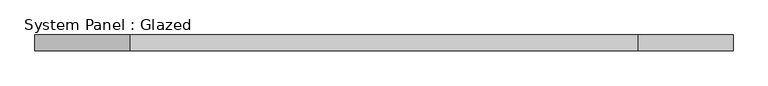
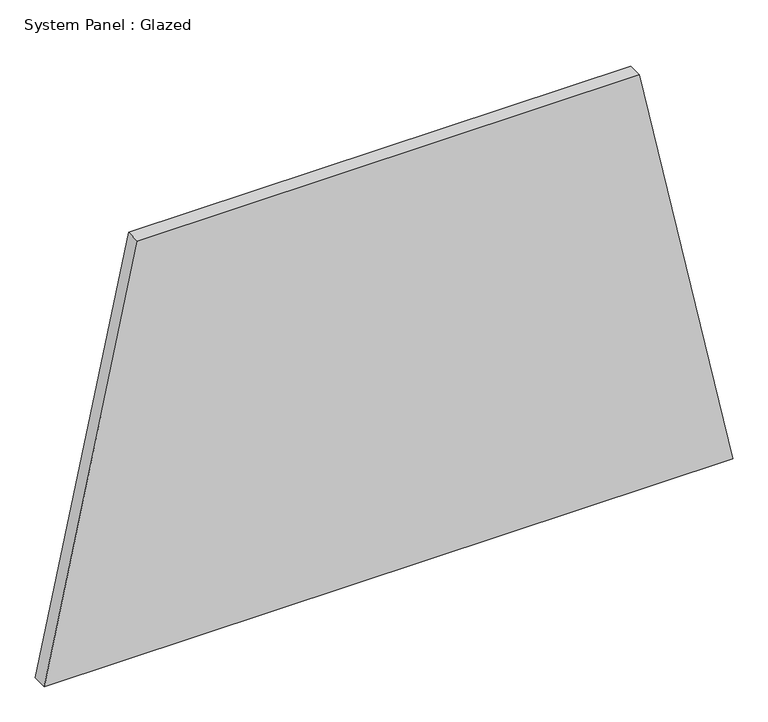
"""IFC4 building model written with IfcOpenShell, lengths in millimetres: plate geometry, System Panel : Glazed."""

from ifc_helpers import new_model, si_unit, frame, origin, place, context, project, spatial, polyline, outline, extrude, source, transform, mapped, element, save


def system_panel_glazed_224b1453(model_context):
    return source(origin(), model_context, "Body", "SweptSolid", [
        extrude(outline(polyline([(0.0, -565.5021612), (0.0, 565.5021612), (719.8713464, 412.1228866), (719.8713464, -412.1228866), (0.0, -565.5021612)])), frame((0.0, 19.05, 0.0), z_axis=(0.0, 1.0, 0.0), x_axis=(0.0, 0.0, 1.0)), (0.0, 0.0, 1.0), 25.4),
    ])


if __name__ == "__main__":
    model = new_model("IFC4")
    model_context = context("Model", 3, world=origin())
    ifc_project = project(units=[si_unit("LENGTHUNIT", "METRE", prefix="MILLI")], contexts=[model_context])
    site = spatial("IfcSite", under=ifc_project)
    building = spatial("IfcBuilding", under=site)
    placement = place(None, origin())
    system_panel_glazed_shape = system_panel_glazed_224b1453(model_context)
    element("IfcPlate", 1, ObjectType="System Panel : Glazed", at=placement, inside=building, context=model_context, shape_type="MappedRepresentation", body=[
        mapped(system_panel_glazed_shape, transform((0.0, 0.0, 0.0), x_axis=(1.0, 0.0, 0.0), y_axis=(0.0, 1.0, 0.0), z_axis=(0.0, 0.0, 1.0))),
    ])
    save(model, "model.ifc")
